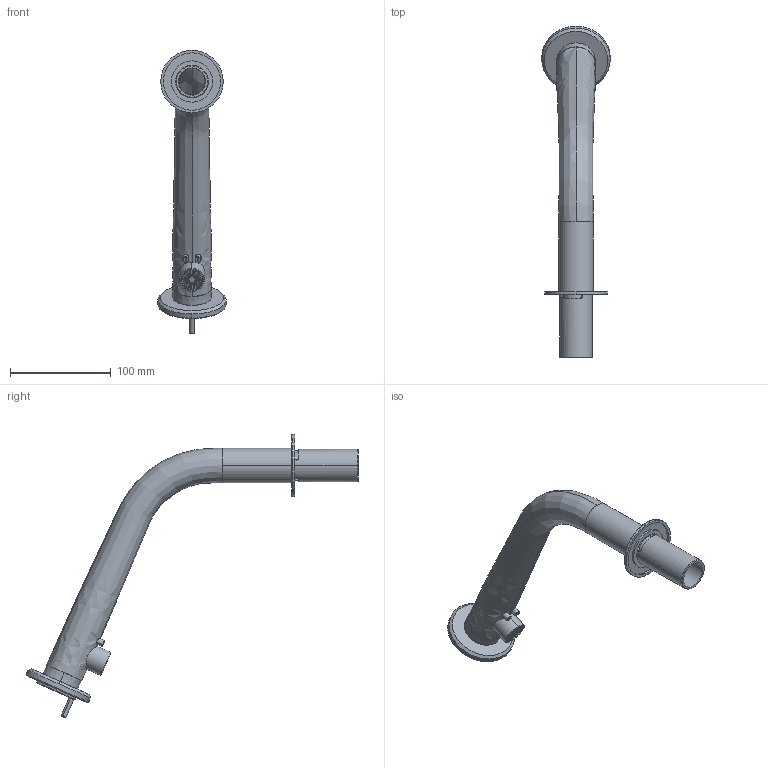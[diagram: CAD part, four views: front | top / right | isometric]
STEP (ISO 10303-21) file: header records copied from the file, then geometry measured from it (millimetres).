
FILE_DESCRIPTION (( 'STEP AP203' ), '1' );
FILE_NAME ('KITCHEN.STEP', '2016-01-08T13:32:03', ( '' ), ( '' ), 'SwSTEP 2.0', 'SolidWorks 2012', '' );
FILE_SCHEMA (( 'CONFIG_CONTROL_DESIGN' ));
Length unit declared in the file: millimetre
Products named in the file (1): KITCHEN
Bounding box: 68 x 329.77 x 281.46 mm (x, y, z)
Surface area: 78081.1 mm2 (no closed solid volume)
Topology: 0 solids, 14 shells, 255 faces, 893 edges, 658 vertices
Faces by surface type: cylinder 166, plane 52, cone 24, torus 10, bspline 3
Entity records: 11891 total; most frequent: CARTESIAN_POINT 3911, DIRECTION 1732, ORIENTED_EDGE 1463, EDGE_CURVE 893, AXIS2_PLACEMENT_3D 727, VERTEX_POINT 658, CIRCLE 474, EDGE_LOOP 366
